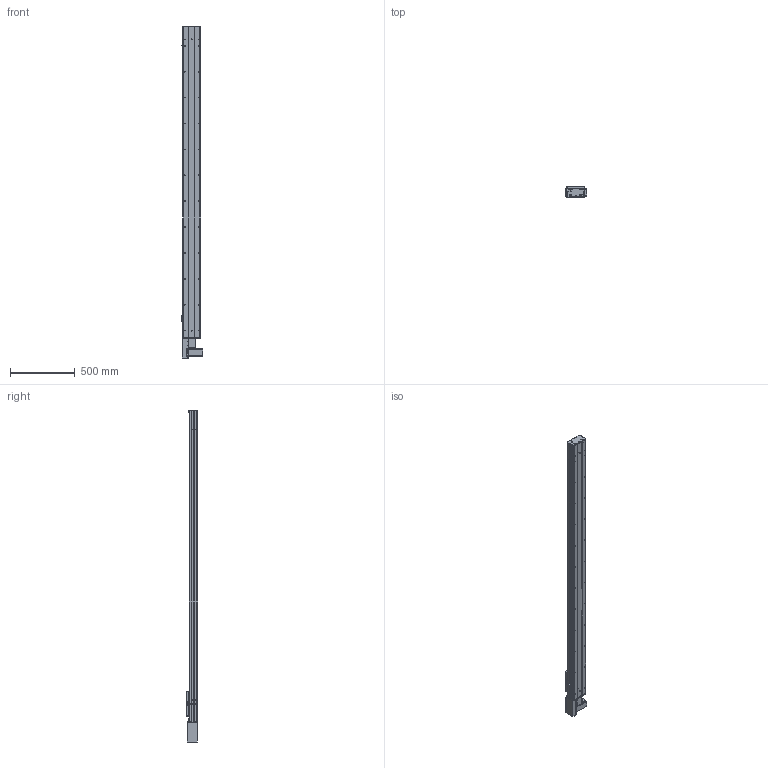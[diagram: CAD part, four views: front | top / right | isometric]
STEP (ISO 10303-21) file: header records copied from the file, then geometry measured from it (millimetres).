
FILE_DESCRIPTION (( 'STEP AP203' ), '1' );
FILE_NAME ('Y135CB-D90-S2100-BR-P400W.STEP', '2020-02-18T02:56:34', ( '微软用户' ), ( '微软中国' ), 'SwSTEP 2.0', 'SolidWorks 2017', '' );
FILE_SCHEMA (( 'CONFIG_CONTROL_DESIGN' ));
Length unit declared in the file: millimetre
Products named in the file (18): san松下电机400不带刹车----; Y135CB-耜裔; Y135CB-D90-S2100-BR-P400W; 5CB --掛极耜裔啣-; 135CB---遴掛极.-; C-詩湍揤踡え-陔; 35CB---喘謫眊楊擘啣; 135CB--詩湍-CE; Y10B-耜蚾蟀諉啣----; Y100-135俋离換覜ん--; Y俋欶BR----; Y135C-陔俋离換覜結え-; 0B-埴倛裔啣; 5C--俋欶; 0B-源倛裔啣; C-雄赽釱--; 0B-萇儂楊擘啣; Y10B--々湍喘謫眊--666
Assembly tree (21 placements, depth 2):
  Y135CB-D90-S2100-BR-P400W
    Y135CB-耜裔
    135CB---遴掛极.-
    35CB---喘謫眊楊擘啣
    Y10B-耜蚾蟀諉啣----
    Y俋欶BR----
    0B-埴倛裔啣
    0B-源倛裔啣
    0B-萇儂楊擘啣
    san松下电机400不带刹车----
    5CB --掛极耜裔啣-  x2
    C-詩湍揤踡え-陔  x2
    135CB--詩湍-CE
    Y100-135俋离換覜ん--  x3
    Y135C-陔俋离換覜結え-
    5C--俋欶
    C-雄赽釱--
    Y10B--々湍喘謫眊--666
Bounding box: 167.5 x 91 x 2564.5 mm (x, y, z)
Volume: 7243790.8 mm3; surface area: 2864151.8 mm2
Topology: 21 solids, 21 shells, 969 faces, 2635 edges, 1746 vertices
Faces by surface type: cylinder 495, plane 458, cone 16
Entity records: 30553 total; most frequent: CARTESIAN_POINT 5076, DIRECTION 5075, ORIENTED_EDGE 4746, EDGE_CURVE 2373, AXIS2_PLACEMENT_3D 1857, VERTEX_POINT 1574, VECTOR 1361, LINE 1361
